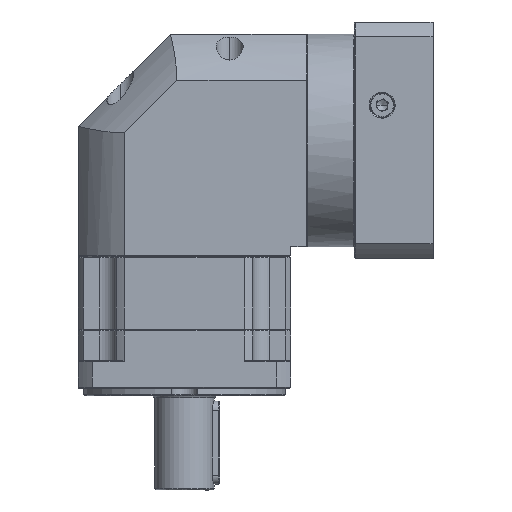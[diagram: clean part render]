
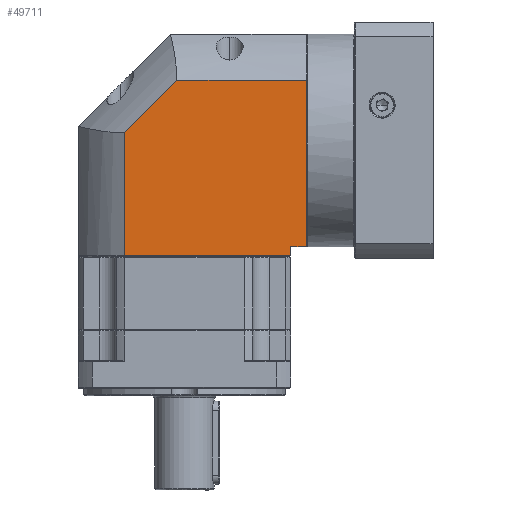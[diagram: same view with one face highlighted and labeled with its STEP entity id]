
A CAD part, front view. The second image highlights one B-rep face of the part: STEP entity #49711.
In plain terms, the highlighted planar face has unit normal (0, -1, 0).
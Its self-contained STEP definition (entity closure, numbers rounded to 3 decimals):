
#90 = LINE ( 'NONE', #115221, #53409 ) ;
#134 = DIRECTION ( 'NONE',  ( 0., 0., 1. ) ) ;
#945 = ORIENTED_EDGE ( 'NONE', *, *, #43210, .F. ) ;
#6861 = VECTOR ( 'NONE', #107936, 1000. ) ;
#8683 = CARTESIAN_POINT ( 'NONE',  ( 10.033, 1.007, 5.839 ) ) ;
#12392 = VECTOR ( 'NONE', #123419, 1000. ) ;
#16590 = VERTEX_POINT ( 'NONE', #68856 ) ;
#16785 = CARTESIAN_POINT ( 'NONE',  ( -15.068, 1.007, -55.723 ) ) ;
#18521 = DIRECTION ( 'NONE',  ( 0., 1., 0. ) ) ;
#19720 = FACE_OUTER_BOUND ( 'NONE', #31723, .T. ) ;
#21778 = ORIENTED_EDGE ( 'NONE', *, *, #112944, .F. ) ;
#23427 = CARTESIAN_POINT ( 'NONE',  ( 10.033, 1.007, 5.839 ) ) ;
#24667 = EDGE_CURVE ( 'NONE', #62255, #16590, #106808, .T. ) ;
#25870 = LINE ( 'NONE', #16785, #99237 ) ;
#30406 = CARTESIAN_POINT ( 'NONE',  ( 108.332, 1.007, 34.177 ) ) ;
#31723 = EDGE_LOOP ( 'NONE', ( #56247, #61637, #63598, #945, #98772, #73559, #21778 ) ) ;
#31765 = EDGE_CURVE ( 'NONE', #110822, #136979, #131914, .T. ) ;
#34056 = EDGE_CURVE ( 'NONE', #84495, #99854, #37657, .T. ) ;
#35550 = DIRECTION ( 'NONE',  ( 0.707, 0., 0.707 ) ) ;
#37657 = LINE ( 'NONE', #132143, #94364 ) ;
#39788 = VERTEX_POINT ( 'NONE', #127959 ) ;
#43210 = EDGE_CURVE ( 'NONE', #136979, #62255, #53012, .T. ) ;
#49190 = DIRECTION ( 'NONE',  ( 1., 0., 0. ) ) ;
#49711 = ADVANCED_FACE ( 'NONE', ( #19720 ), #121945, .F. ) ;
#53012 = LINE ( 'NONE', #102305, #136275 ) ;
#53409 = VECTOR ( 'NONE', #134, 1000. ) ;
#56247 = ORIENTED_EDGE ( 'NONE', *, *, #34056, .F. ) ;
#57249 = EDGE_CURVE ( 'NONE', #16590, #84495, #25870, .T. ) ;
#59188 = CARTESIAN_POINT ( 'NONE',  ( -15.068, 1.007, -60.723 ) ) ;
#61637 = ORIENTED_EDGE ( 'NONE', *, *, #57249, .F. ) ;
#62255 = VERTEX_POINT ( 'NONE', #30406 ) ;
#63598 = ORIENTED_EDGE ( 'NONE', *, *, #24667, .F. ) ;
#66174 = CARTESIAN_POINT ( 'NONE',  ( 99.932, 1.007, -60.723 ) ) ;
#68856 = CARTESIAN_POINT ( 'NONE',  ( 108.332, 1.007, -55.723 ) ) ;
#68895 = DIRECTION ( 'NONE',  ( -1., 0., 0. ) ) ;
#73559 = ORIENTED_EDGE ( 'NONE', *, *, #132084, .F. ) ;
#84495 = VERTEX_POINT ( 'NONE', #97034 ) ;
#94364 = VECTOR ( 'NONE', #100495, 1000. ) ;
#97034 = CARTESIAN_POINT ( 'NONE',  ( 99.932, 1.007, -55.723 ) ) ;
#98553 = VECTOR ( 'NONE', #35550, 1000. ) ;
#98772 = ORIENTED_EDGE ( 'NONE', *, *, #31765, .F. ) ;
#99237 = VECTOR ( 'NONE', #68895, 1000. ) ;
#99854 = VERTEX_POINT ( 'NONE', #66174 ) ;
#100495 = DIRECTION ( 'NONE',  ( 0., 0., -1. ) ) ;
#102305 = CARTESIAN_POINT ( 'NONE',  ( -15.068, 1.007, 34.177 ) ) ;
#106808 = LINE ( 'NONE', #109781, #6861 ) ;
#107936 = DIRECTION ( 'NONE',  ( 0., 0., -1. ) ) ;
#109781 = CARTESIAN_POINT ( 'NONE',  ( 108.332, 1.007, -67.223 ) ) ;
#110822 = VERTEX_POINT ( 'NONE', #8683 ) ;
#112944 = EDGE_CURVE ( 'NONE', #99854, #39788, #133984, .T. ) ;
#113522 = DIRECTION ( 'NONE',  ( 1., 0., 0. ) ) ;
#115221 = CARTESIAN_POINT ( 'NONE',  ( 10.033, 1.007, -67.223 ) ) ;
#121945 = PLANE ( 'NONE',  #123075 ) ;
#123075 = AXIS2_PLACEMENT_3D ( 'NONE', #135851, #18521, #113522 ) ;
#123419 = DIRECTION ( 'NONE',  ( -1., 0., 0. ) ) ;
#127943 = CARTESIAN_POINT ( 'NONE',  ( 38.371, 1.007, 34.177 ) ) ;
#127959 = CARTESIAN_POINT ( 'NONE',  ( 10.033, 1.007, -60.723 ) ) ;
#131914 = LINE ( 'NONE', #23427, #98553 ) ;
#132084 = EDGE_CURVE ( 'NONE', #39788, #110822, #90, .T. ) ;
#132143 = CARTESIAN_POINT ( 'NONE',  ( 99.932, 1.007, -67.223 ) ) ;
#133984 = LINE ( 'NONE', #59188, #12392 ) ;
#135851 = CARTESIAN_POINT ( 'NONE',  ( -15.068, 1.007, -67.223 ) ) ;
#136275 = VECTOR ( 'NONE', #49190, 1000. ) ;
#136979 = VERTEX_POINT ( 'NONE', #127943 ) ;
